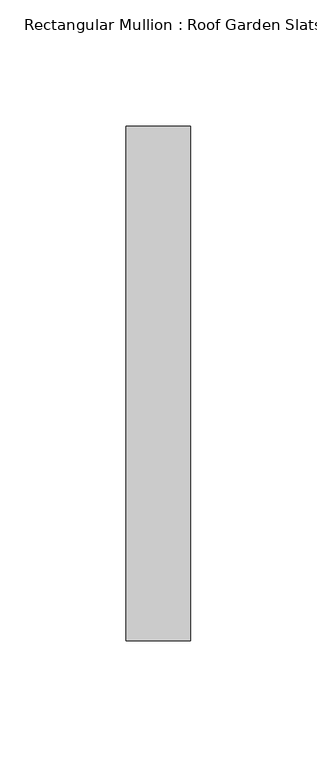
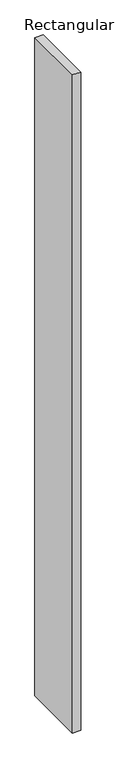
"""IFC4 building model written with IfcOpenShell, lengths in millimetres: member geometry, Rectangular Mullion : Roof Garden Slats."""

from ifc_helpers import new_model, si_unit, frame, origin, place, context, project, spatial, polyline, outline, extrude, source, transform, mapped, element, save


def rectangular_mullion_roof_garden_slats_e20d8c06(model_context):
    return source(origin(), model_context, "Body", "SweptSolid", [
        extrude(outline(polyline([(0.0, 139.7), (0.0, -63.5), (-25.4, -63.5), (-25.4, 139.7), (0.0, 139.7)])), frame((0.0, 0.0, -2173.1679642), z_axis=(0.0, 0.0, 1.0), x_axis=(1.0, 0.0, 0.0)), (0.0, 0.0, 1.0), 2173.1679642),
    ])


if __name__ == "__main__":
    model = new_model("IFC4")
    model_context = context("Model", 3, world=origin())
    ifc_project = project(units=[si_unit("LENGTHUNIT", "METRE", prefix="MILLI")], contexts=[model_context])
    site = spatial("IfcSite", under=ifc_project)
    building = spatial("IfcBuilding", under=site)
    placement = place(None, origin())
    rectangular_mullion_roof_garden_slats_shape = rectangular_mullion_roof_garden_slats_e20d8c06(model_context)
    element("IfcMember", 1, ObjectType="Rectangular Mullion : Roof Garden Slats", at=placement, inside=building, context=model_context, shape_type="MappedRepresentation", body=[
        mapped(rectangular_mullion_roof_garden_slats_shape, transform((0.0, 0.0, 0.0), x_axis=(1.0, 0.0, 0.0), y_axis=(0.0, 1.0, 0.0), z_axis=(0.0, 0.0, 1.0))),
    ])
    save(model, "model.ifc")
